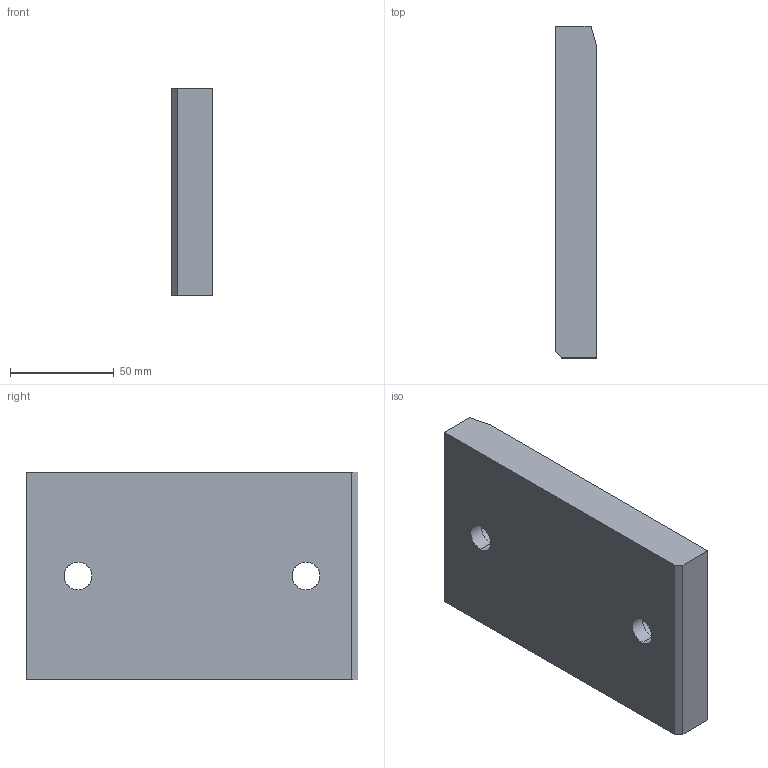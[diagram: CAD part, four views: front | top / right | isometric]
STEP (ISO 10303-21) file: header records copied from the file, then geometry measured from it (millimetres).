
FILE_DESCRIPTION(('CATIA V5 STEP Exchange'),'2;1');
FILE_NAME('C:\Users\borellobunino\Desktop\3D X SITO CF\A915\GSB_OILLESS_G22501100160\STEP-2.03\A915-100X160.stp','2019-07-14T13:25:21+00:00',('none'),('none'),'CATIA Version 5 Release 20 GA (IN-10)','CATIA V5 STEP AP203','none');
FILE_SCHEMA(('CONFIG_CONTROL_DESIGN'));
Length unit declared in the file: millimetre
Products named in the file (1): A915-100X160
Bounding box: 20 x 160 x 100 mm (x, y, z)
Volume: 307777.3 mm3; surface area: 43456 mm2
Topology: 1 solids, 1 shells, 23 faces, 73 edges, 54 vertices
Faces by surface type: plane 10, cylinder 9, torus 4
Entity records: 1057 total; most frequent: CARTESIAN_POINT 375, ORIENTED_EDGE 146, DIRECTION 103, EDGE_CURVE 73, AXIS2_PLACEMENT_3D 54, VERTEX_POINT 54, CIRCLE 30, EDGE_LOOP 29
